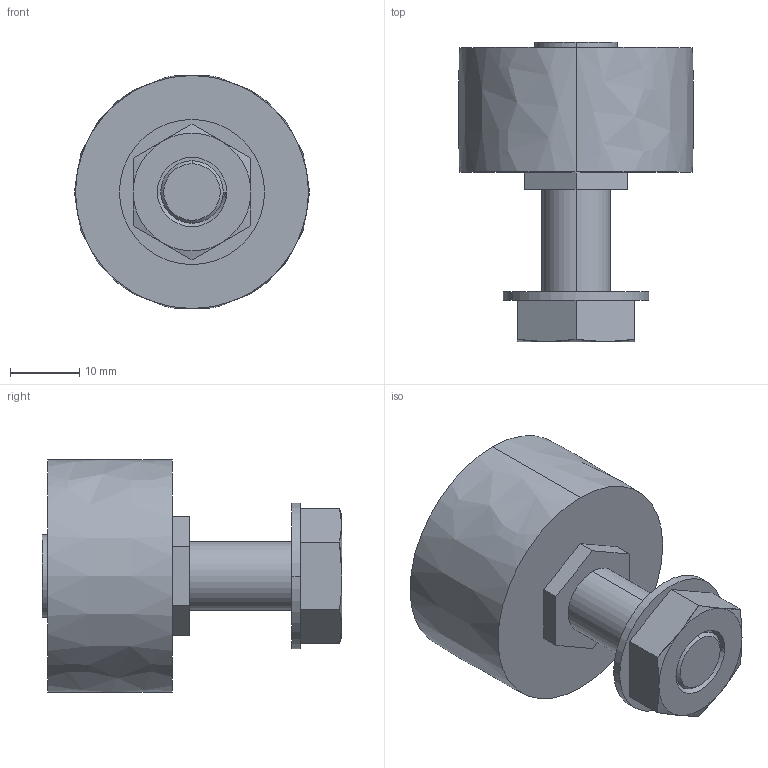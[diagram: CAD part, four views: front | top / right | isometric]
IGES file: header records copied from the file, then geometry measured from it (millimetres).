
Start section: 3D InterOp IGES (v. 2019 1.0.2), Spatial Corp. Copyright (c) 1999-2017.
Global section: file name: LR 34 C.igs; native system: Spatial Corp.; preprocessor: 3D InterOp GENERIC/IGES 3.0; author: Noname; organization: Noname; date: 20220628.172231; units: millimetre
Bounding box: 33.96 x 43.35 x 33.68 mm (x, y, z)
Surface area: 5325 mm2 (no closed solid volume)
Topology: 0 solids, 0 shells, 45 faces, 212 edges, 212 vertices
Faces by surface type: extrusion 27, revolution 16, bspline 2
